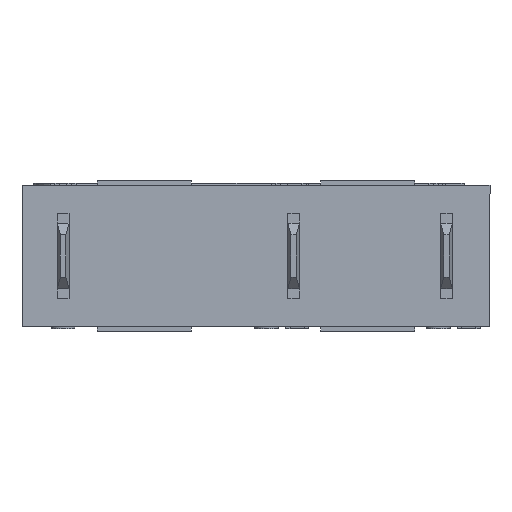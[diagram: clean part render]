
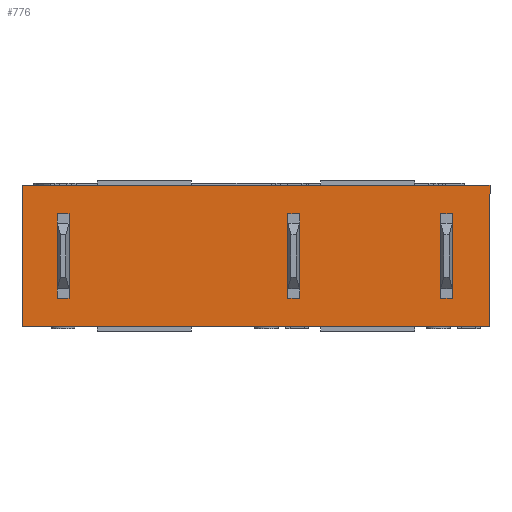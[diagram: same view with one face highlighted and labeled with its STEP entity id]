
A CAD part, front view. The second image highlights one B-rep face of the part: STEP entity #776.
In plain terms, the highlighted planar face has unit normal (0, -1, 0).
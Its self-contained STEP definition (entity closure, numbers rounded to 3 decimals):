
#234=CARTESIAN_POINT('',(7.85,-5.0,-1.2));
#235=VERTEX_POINT('',#234);
#242=CARTESIAN_POINT('',(8.35,-5.0,-1.2));
#243=VERTEX_POINT('',#242);
#244=CARTESIAN_POINT('',(7.85,-5.0,-1.2));
#245=DIRECTION('',(1.0,0.0,0.0));
#246=VECTOR('',#245,0.5);
#247=LINE('',#244,#246);
#248=EDGE_CURVE('',#235,#243,#247,.T.);
#274=CARTESIAN_POINT('',(1.35,-5.0,-1.2));
#275=VERTEX_POINT('',#274);
#282=CARTESIAN_POINT('',(1.85,-5.0,-1.2));
#283=VERTEX_POINT('',#282);
#284=CARTESIAN_POINT('',(1.35,-5.0,-1.2));
#285=DIRECTION('',(1.0,0.0,0.0));
#286=VECTOR('',#285,0.5);
#287=LINE('',#284,#286);
#288=EDGE_CURVE('',#275,#283,#287,.T.);
#314=CARTESIAN_POINT('',(-8.45,-5.0,-1.2));
#315=VERTEX_POINT('',#314);
#322=CARTESIAN_POINT('',(-7.95,-5.0,-1.2));
#323=VERTEX_POINT('',#322);
#324=CARTESIAN_POINT('',(-8.45,-5.0,-1.2));
#325=DIRECTION('',(1.0,0.0,0.0));
#326=VECTOR('',#325,0.5);
#327=LINE('',#324,#326);
#328=EDGE_CURVE('',#315,#323,#327,.T.);
#353=CARTESIAN_POINT('',(7.85,-5.0,2.4));
#354=VERTEX_POINT('',#353);
#361=CARTESIAN_POINT('',(7.85,-5.0,2.4));
#362=DIRECTION('',(0.0,0.0,-1.0));
#363=VECTOR('',#362,3.6);
#364=LINE('',#361,#363);
#365=EDGE_CURVE('',#354,#235,#364,.T.);
#384=CARTESIAN_POINT('',(1.35,-5.,2.4));
#385=VERTEX_POINT('',#384);
#392=CARTESIAN_POINT('',(1.35,-5.,2.4));
#393=DIRECTION('',(0.0,0.0,-1.0));
#394=VECTOR('',#393,3.6);
#395=LINE('',#392,#394);
#396=EDGE_CURVE('',#385,#275,#395,.T.);
#431=CARTESIAN_POINT('',(1.85,-5.0,2.4));
#432=VERTEX_POINT('',#431);
#433=CARTESIAN_POINT('',(1.85,-5.0,2.4));
#434=DIRECTION('',(0.0,0.0,-1.0));
#435=VECTOR('',#434,3.6);
#436=LINE('',#433,#435);
#437=EDGE_CURVE('',#432,#283,#436,.T.);
#463=CARTESIAN_POINT('',(-8.45,-5.0,2.4));
#464=VERTEX_POINT('',#463);
#471=CARTESIAN_POINT('',(-8.45,-5.0,-1.2));
#472=DIRECTION('',(0.0,0.0,1.0));
#473=VECTOR('',#472,3.6);
#474=LINE('',#471,#473);
#475=EDGE_CURVE('',#315,#464,#474,.T.);
#510=CARTESIAN_POINT('',(-7.95,-5.,2.4));
#511=VERTEX_POINT('',#510);
#512=CARTESIAN_POINT('',(-7.95,-5.,2.4));
#513=DIRECTION('',(0.0,0.0,-1.0));
#514=VECTOR('',#513,3.6);
#515=LINE('',#512,#514);
#516=EDGE_CURVE('',#511,#323,#515,.T.);
#697=CARTESIAN_POINT('',(9.95,-5.0,-2.4));
#698=DIRECTION('',(0.0,-1.0,0.0));
#699=DIRECTION('',(0.0,0.0,-1.0));
#700=AXIS2_PLACEMENT_3D('',#697,#698,#699);
#701=PLANE('',#700);
#702=CARTESIAN_POINT('',(9.95,-5.,3.6));
#703=VERTEX_POINT('',#702);
#704=CARTESIAN_POINT('',(-9.95,-5.,3.6));
#705=VERTEX_POINT('',#704);
#706=CARTESIAN_POINT('',(9.95,-5.,3.6));
#707=DIRECTION('',(-1.0,0.0,0.0));
#708=VECTOR('',#707,19.9);
#709=LINE('',#706,#708);
#710=EDGE_CURVE('',#703,#705,#709,.T.);
#711=ORIENTED_EDGE('',*,*,#710,.T.);
#712=CARTESIAN_POINT('',(-9.95,-5.0,-2.4));
#713=VERTEX_POINT('',#712);
#714=CARTESIAN_POINT('',(-9.95,-5.0,-2.4));
#715=DIRECTION('',(0.0,0.0,1.0));
#716=VECTOR('',#715,6.0);
#717=LINE('',#714,#716);
#718=EDGE_CURVE('',#713,#705,#717,.T.);
#719=ORIENTED_EDGE('',*,*,#718,.F.);
#720=CARTESIAN_POINT('',(9.95,-5.0,-2.4));
#721=VERTEX_POINT('',#720);
#722=CARTESIAN_POINT('',(-9.95,-5.0,-2.4));
#723=DIRECTION('',(1.0,0.0,0.0));
#724=VECTOR('',#723,19.9);
#725=LINE('',#722,#724);
#726=EDGE_CURVE('',#713,#721,#725,.T.);
#727=ORIENTED_EDGE('',*,*,#726,.T.);
#728=CARTESIAN_POINT('',(9.95,-5.0,-2.4));
#729=DIRECTION('',(0.0,0.0,1.0));
#730=VECTOR('',#729,6.0);
#731=LINE('',#728,#730);
#732=EDGE_CURVE('',#721,#703,#731,.T.);
#733=ORIENTED_EDGE('',*,*,#732,.T.);
#734=EDGE_LOOP('',(#711,#719,#727,#733));
#735=FACE_OUTER_BOUND('',#734,.T.);
#736=ORIENTED_EDGE('',*,*,#516,.T.);
#737=ORIENTED_EDGE('',*,*,#328,.F.);
#738=ORIENTED_EDGE('',*,*,#475,.T.);
#739=CARTESIAN_POINT('',(-8.45,-5.0,2.4));
#740=DIRECTION('',(1.0,0.0,0.0));
#741=VECTOR('',#740,0.5);
#742=LINE('',#739,#741);
#743=EDGE_CURVE('',#464,#511,#742,.T.);
#744=ORIENTED_EDGE('',*,*,#743,.T.);
#745=EDGE_LOOP('',(#736,#737,#738,#744));
#746=FACE_BOUND('',#745,.T.);
#747=ORIENTED_EDGE('',*,*,#437,.T.);
#748=ORIENTED_EDGE('',*,*,#288,.F.);
#749=ORIENTED_EDGE('',*,*,#396,.F.);
#750=CARTESIAN_POINT('',(1.35,-5.,2.4));
#751=DIRECTION('',(1.0,0.0,0.0));
#752=VECTOR('',#751,0.5);
#753=LINE('',#750,#752);
#754=EDGE_CURVE('',#385,#432,#753,.T.);
#755=ORIENTED_EDGE('',*,*,#754,.T.);
#756=EDGE_LOOP('',(#747,#748,#749,#755));
#757=FACE_BOUND('',#756,.T.);
#758=ORIENTED_EDGE('',*,*,#365,.F.);
#759=CARTESIAN_POINT('',(8.35,-5.0,2.4));
#760=VERTEX_POINT('',#759);
#761=CARTESIAN_POINT('',(7.85,-5.0,2.4));
#762=DIRECTION('',(1.0,0.0,0.0));
#763=VECTOR('',#762,0.5);
#764=LINE('',#761,#763);
#765=EDGE_CURVE('',#354,#760,#764,.T.);
#766=ORIENTED_EDGE('',*,*,#765,.T.);
#767=CARTESIAN_POINT('',(8.35,-5.0,2.4));
#768=DIRECTION('',(0.0,0.0,-1.0));
#769=VECTOR('',#768,3.6);
#770=LINE('',#767,#769);
#771=EDGE_CURVE('',#760,#243,#770,.T.);
#772=ORIENTED_EDGE('',*,*,#771,.T.);
#773=ORIENTED_EDGE('',*,*,#248,.F.);
#774=EDGE_LOOP('',(#758,#766,#772,#773));
#775=FACE_BOUND('',#774,.T.);
#776=ADVANCED_FACE('',(#735,#746,#757,#775),#701,.T.);
